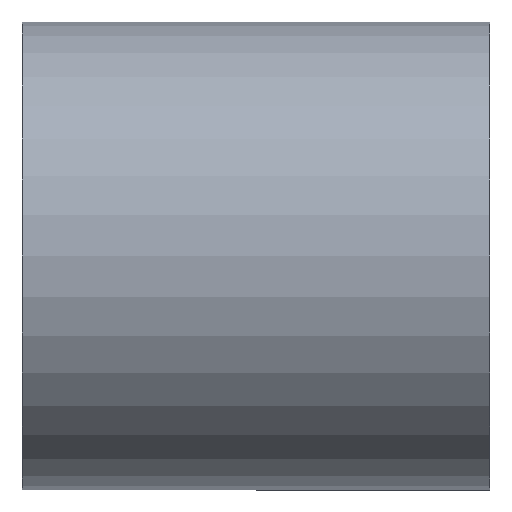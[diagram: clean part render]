
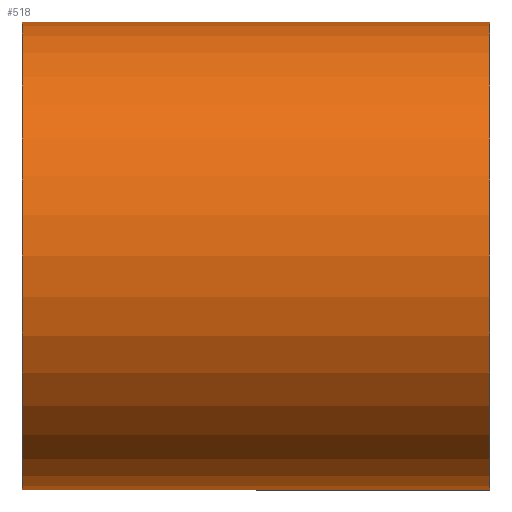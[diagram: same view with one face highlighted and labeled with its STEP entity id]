
A CAD part, front view. The second image highlights one B-rep face of the part: STEP entity #518.
In plain terms, the highlighted cylindrical face has radius 7.5 mm (diameter 15 mm), a partial arc.
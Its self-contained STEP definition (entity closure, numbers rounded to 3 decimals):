
#9 = CARTESIAN_POINT ( 'NONE',  ( 0., 0., 0. ) ) ;
#13 = CARTESIAN_POINT ( 'NONE',  ( 7.5, 0., 0. ) ) ;
#15 = CARTESIAN_POINT ( 'NONE',  ( -7.5, 0., -7.5 ) ) ;
#40 = VERTEX_POINT ( 'NONE', #199 ) ;
#66 = DIRECTION ( 'NONE',  ( -1., 0., 0. ) ) ;
#93 = DIRECTION ( 'NONE',  ( -1., 0., 0. ) ) ;
#105 = DIRECTION ( 'NONE',  ( -1., 0., 0. ) ) ;
#116 = CARTESIAN_POINT ( 'NONE',  ( 7.5, 0., 7.5 ) ) ;
#139 = EDGE_CURVE ( 'NONE', #40, #661, #367, .T. ) ;
#149 = CYLINDRICAL_SURFACE ( 'NONE', #673, 7.5 ) ;
#150 = VERTEX_POINT ( 'NONE', #15 ) ;
#156 = DIRECTION ( 'NONE',  ( 0., 0., 1. ) ) ;
#170 = AXIS2_PLACEMENT_3D ( 'NONE', #13, #171, #397 ) ;
#171 = DIRECTION ( 'NONE',  ( -1., 0., 0. ) ) ;
#173 = DIRECTION ( 'NONE',  ( 0., 0., 1. ) ) ;
#199 = CARTESIAN_POINT ( 'NONE',  ( 7.5, 0., -7.5 ) ) ;
#242 = EDGE_CURVE ( 'NONE', #40, #150, #665, .T. ) ;
#245 = LINE ( 'NONE', #477, #479 ) ;
#322 = ORIENTED_EDGE ( 'NONE', *, *, #242, .F. ) ;
#346 = CARTESIAN_POINT ( 'NONE',  ( -7.5, 0., 7.5 ) ) ;
#367 = CIRCLE ( 'NONE', #170, 7.5 ) ;
#371 = ORIENTED_EDGE ( 'NONE', *, *, #667, .F. ) ;
#397 = DIRECTION ( 'NONE',  ( 0., 0., 1. ) ) ;
#419 = ORIENTED_EDGE ( 'NONE', *, *, #139, .T. ) ;
#425 = CARTESIAN_POINT ( 'NONE',  ( 0., 0., -7.5 ) ) ;
#477 = CARTESIAN_POINT ( 'NONE',  ( 0., 0., 7.5 ) ) ;
#479 = VECTOR ( 'NONE', #490, 1000. ) ;
#480 = EDGE_CURVE ( 'NONE', #661, #664, #245, .T. ) ;
#484 = ORIENTED_EDGE ( 'NONE', *, *, #480, .T. ) ;
#490 = DIRECTION ( 'NONE',  ( -1., 0., 0. ) ) ;
#518 = ADVANCED_FACE ( 'NONE', ( #659 ), #149, .T. ) ;
#520 = CIRCLE ( 'NONE', #641, 7.5 ) ;
#579 = CARTESIAN_POINT ( 'NONE',  ( -7.5, 0., 0. ) ) ;
#630 = VECTOR ( 'NONE', #93, 1000. ) ;
#641 = AXIS2_PLACEMENT_3D ( 'NONE', #579, #66, #173 ) ;
#659 = FACE_OUTER_BOUND ( 'NONE', #705, .T. ) ;
#661 = VERTEX_POINT ( 'NONE', #116 ) ;
#664 = VERTEX_POINT ( 'NONE', #346 ) ;
#665 = LINE ( 'NONE', #425, #630 ) ;
#667 = EDGE_CURVE ( 'NONE', #150, #664, #520, .T. ) ;
#673 = AXIS2_PLACEMENT_3D ( 'NONE', #9, #105, #156 ) ;
#705 = EDGE_LOOP ( 'NONE', ( #322, #419, #484, #371 ) ) ;
